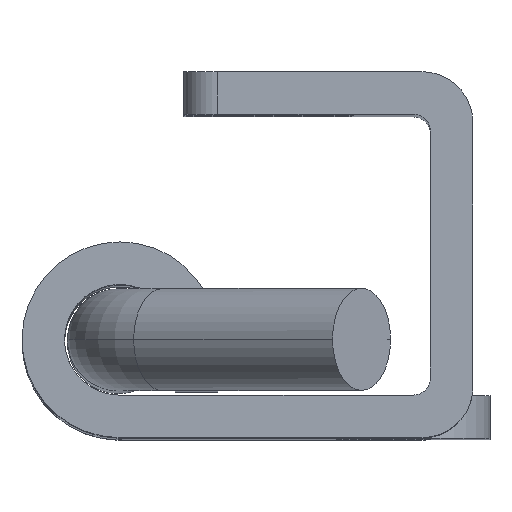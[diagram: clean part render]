
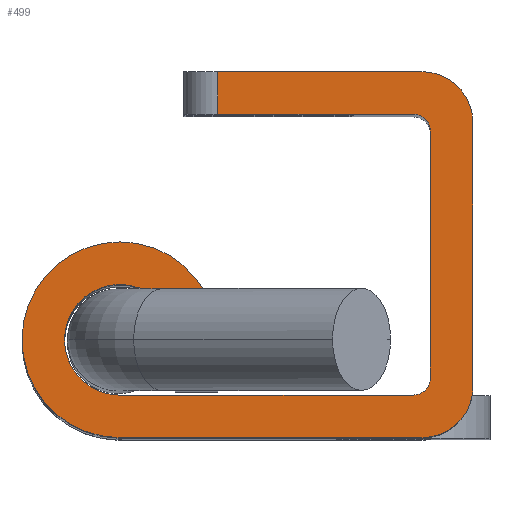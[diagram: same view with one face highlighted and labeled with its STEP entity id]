
A CAD part, top view. The second image highlights one B-rep face of the part: STEP entity #499.
In plain terms, the highlighted planar face has unit normal (0, 0, 1).
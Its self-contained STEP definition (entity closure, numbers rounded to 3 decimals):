
#3 = EDGE_CURVE ( 'NONE', #1834, #942, #2531, .T. ) ;
#12 = DIRECTION ( 'NONE',  ( 1., 0., 0. ) ) ;
#14 = DIRECTION ( 'NONE',  ( 0., 0., -1. ) ) ;
#31 = DIRECTION ( 'NONE',  ( 0., 1., 0. ) ) ;
#42 = CARTESIAN_POINT ( 'NONE',  ( 5.857, 0., 45.5 ) ) ;
#57 = CARTESIAN_POINT ( 'NONE',  ( 0.027, 2.5, 45.5 ) ) ;
#62 = CIRCLE ( 'NONE', #465, 5.75 ) ;
#87 = ORIENTED_EDGE ( 'NONE', *, *, #1687, .T. ) ;
#92 = CARTESIAN_POINT ( 'NONE',  ( 18.357, 0., 45.5 ) ) ;
#117 = VERTEX_POINT ( 'NONE', #2298 ) ;
#140 = CARTESIAN_POINT ( 'NONE',  ( 0., 0., 45.5 ) ) ;
#142 = AXIS2_PLACEMENT_3D ( 'NONE', #1974, #2166, #1408 ) ;
#145 = AXIS2_PLACEMENT_3D ( 'NONE', #1194, #1952, #12 ) ;
#163 = B_SPLINE_CURVE_WITH_KNOTS ( 'NONE', 3,
 ( #520, #1895, #2071, #1698 ),
 .UNSPECIFIED., .F., .F.,
 ( 4, 4 ),
 ( 0., 1. ),
 .UNSPECIFIED. ) ;
#171 = VERTEX_POINT ( 'NONE', #1718 ) ;
#186 = ORIENTED_EDGE ( 'NONE', *, *, #555, .F. ) ;
#218 = AXIS2_PLACEMENT_3D ( 'NONE', #738, #560, #1526 ) ;
#230 = LINE ( 'NONE', #42, #1099 ) ;
#237 = ORIENTED_EDGE ( 'NONE', *, *, #2093, .F. ) ;
#259 = CIRCLE ( 'NONE', #142, 3. ) ;
#260 = CARTESIAN_POINT ( 'NONE',  ( 0.215, 0., 45.5 ) ) ;
#284 = CARTESIAN_POINT ( 'NONE',  ( 3.357, 2.8, 45.5 ) ) ;
#316 = EDGE_CURVE ( 'NONE', #1979, #600, #1616, .T. ) ;
#322 = LINE ( 'NONE', #908, #756 ) ;
#354 = DIRECTION ( 'NONE',  ( -1., 0., 0. ) ) ;
#396 = CARTESIAN_POINT ( 'NONE',  ( 5.857, 19., 45.5 ) ) ;
#407 = DIRECTION ( 'NONE',  ( 0., 1., 0. ) ) ;
#411 = DIRECTION ( 'NONE',  ( 1., 0., 0. ) ) ;
#445 = DIRECTION ( 'NONE',  ( -1., 0., 0. ) ) ;
#465 = AXIS2_PLACEMENT_3D ( 'NONE', #2171, #849, #411 ) ;
#476 = CARTESIAN_POINT ( 'NONE',  ( 17.357, 18., 45.5 ) ) ;
#492 = ORIENTED_EDGE ( 'NONE', *, *, #1450, .F. ) ;
#499 = ADVANCED_FACE ( 'NONE', ( #2492 ), #1540, .F. ) ;
#510 = AXIS2_PLACEMENT_3D ( 'NONE', #476, #2010, #1446 ) ;
#515 = VERTEX_POINT ( 'NONE', #1912 ) ;
#520 = CARTESIAN_POINT ( 'NONE',  ( 0., 0., 45.5 ) ) ;
#555 = EDGE_CURVE ( 'NONE', #515, #1657, #2501, .T. ) ;
#560 = DIRECTION ( 'NONE',  ( 0., 0., -1. ) ) ;
#593 = EDGE_LOOP ( 'NONE', ( #2534, #1538, #186, #1307, #492, #865, #1093, #237, #982, #2404, #659, #2030, #1120, #791, #87, #1692, #1807 ) ) ;
#600 = VERTEX_POINT ( 'NONE', #2086 ) ;
#613 = CARTESIAN_POINT ( 'NONE',  ( 3.357, 5.749, 45.5 ) ) ;
#630 = DIRECTION ( 'NONE',  ( 0., 0., 1. ) ) ;
#659 = ORIENTED_EDGE ( 'NONE', *, *, #2488, .T. ) ;
#728 = CARTESIAN_POINT ( 'NONE',  ( 20.857, 0., 45.5 ) ) ;
#738 = CARTESIAN_POINT ( 'NONE',  ( 0., 0., 45.5 ) ) ;
#756 = VECTOR ( 'NONE', #1106, 1000. ) ;
#791 = ORIENTED_EDGE ( 'NONE', *, *, #3, .T. ) ;
#799 = EDGE_CURVE ( 'NONE', #117, #1834, #163, .T. ) ;
#809 = EDGE_CURVE ( 'NONE', #2530, #2384, #322, .T. ) ;
#823 = DIRECTION ( 'NONE',  ( 0., -1., 0. ) ) ;
#842 = VECTOR ( 'NONE', #445, 1000. ) ;
#849 = DIRECTION ( 'NONE',  ( 0., 0., 1. ) ) ;
#865 = ORIENTED_EDGE ( 'NONE', *, *, #985, .T. ) ;
#903 = LINE ( 'NONE', #92, #2063 ) ;
#908 = CARTESIAN_POINT ( 'NONE',  ( 0., 2.5, 45.5 ) ) ;
#942 = VERTEX_POINT ( 'NONE', #1383 ) ;
#962 = DIRECTION ( 'NONE',  ( 1., 0., 0. ) ) ;
#967 = VECTOR ( 'NONE', #1905, 1000. ) ;
#982 = ORIENTED_EDGE ( 'NONE', *, *, #316, .F. ) ;
#985 = EDGE_CURVE ( 'NONE', #2469, #2384, #2140, .T. ) ;
#1093 = ORIENTED_EDGE ( 'NONE', *, *, #809, .F. ) ;
#1099 = VECTOR ( 'NONE', #823, 1000. ) ;
#1106 = DIRECTION ( 'NONE',  ( 1., 0., 0. ) ) ;
#1120 = ORIENTED_EDGE ( 'NONE', *, *, #799, .T. ) ;
#1132 = CIRCLE ( 'NONE', #145, 3.25 ) ;
#1139 = CIRCLE ( 'NONE', #510, 1. ) ;
#1141 = EDGE_CURVE ( 'NONE', #2022, #1657, #230, .T. ) ;
#1194 = CARTESIAN_POINT ( 'NONE',  ( 0.107, 5.749, 45.5 ) ) ;
#1253 = VECTOR ( 'NONE', #407, 1000. ) ;
#1265 = DIRECTION ( 'NONE',  ( 0., 1., 0. ) ) ;
#1276 = LINE ( 'NONE', #2202, #842 ) ;
#1282 = VERTEX_POINT ( 'NONE', #1546 ) ;
#1307 = ORIENTED_EDGE ( 'NONE', *, *, #2441, .T. ) ;
#1316 = CARTESIAN_POINT ( 'NONE',  ( 20.857, 19., 45.5 ) ) ;
#1358 = LINE ( 'NONE', #728, #967 ) ;
#1383 = CARTESIAN_POINT ( 'NONE',  ( 17.857, 0., 45.5 ) ) ;
#1406 = CARTESIAN_POINT ( 'NONE',  ( 5.857, 2.8, 45.5 ) ) ;
#1408 = DIRECTION ( 'NONE',  ( -1., 0., 0. ) ) ;
#1446 = DIRECTION ( 'NONE',  ( -1., 0., 0. ) ) ;
#1450 = EDGE_CURVE ( 'NONE', #2469, #1514, #903, .T. ) ;
#1464 = LINE ( 'NONE', #2176, #1938 ) ;
#1514 = VERTEX_POINT ( 'NONE', #2502 ) ;
#1526 = DIRECTION ( 'NONE',  ( 1., 0., 0. ) ) ;
#1538 = ORIENTED_EDGE ( 'NONE', *, *, #1141, .T. ) ;
#1540 = PLANE ( 'NONE',  #218 ) ;
#1546 = CARTESIAN_POINT ( 'NONE',  ( 5.857, 2.8, 45.5 ) ) ;
#1548 = CARTESIAN_POINT ( 'NONE',  ( 17.357, 3.5, 45.5 ) ) ;
#1556 = EDGE_CURVE ( 'NONE', #2108, #2241, #1358, .T. ) ;
#1561 = CARTESIAN_POINT ( 'NONE',  ( 17.357, 2.5, 45.5 ) ) ;
#1616 = LINE ( 'NONE', #613, #1253 ) ;
#1638 = EDGE_CURVE ( 'NONE', #2241, #171, #259, .T. ) ;
#1657 = VERTEX_POINT ( 'NONE', #396 ) ;
#1687 = EDGE_CURVE ( 'NONE', #942, #2108, #1699, .T. ) ;
#1692 = ORIENTED_EDGE ( 'NONE', *, *, #1556, .T. ) ;
#1698 = CARTESIAN_POINT ( 'NONE',  ( 0.215, 0., 45.5 ) ) ;
#1699 = CIRCLE ( 'NONE', #2385, 3. ) ;
#1718 = CARTESIAN_POINT ( 'NONE',  ( 17.857, 21.5, 45.5 ) ) ;
#1725 = DIRECTION ( 'NONE',  ( -1., 0., 0. ) ) ;
#1786 = CARTESIAN_POINT ( 'NONE',  ( 18.357, 3.5, 45.5 ) ) ;
#1807 = ORIENTED_EDGE ( 'NONE', *, *, #1638, .T. ) ;
#1834 = VERTEX_POINT ( 'NONE', #260 ) ;
#1895 = CARTESIAN_POINT ( 'NONE',  ( 0.072, 0., 45.5 ) ) ;
#1898 = VECTOR ( 'NONE', #1725, 1000. ) ;
#1905 = DIRECTION ( 'NONE',  ( 0., 1., 0. ) ) ;
#1910 = CARTESIAN_POINT ( 'NONE',  ( 5.857, 5.749, 45.5 ) ) ;
#1912 = CARTESIAN_POINT ( 'NONE',  ( 17.357, 19., 45.5 ) ) ;
#1938 = VECTOR ( 'NONE', #31, 1000. ) ;
#1952 = DIRECTION ( 'NONE',  ( 0., 0., 1. ) ) ;
#1974 = CARTESIAN_POINT ( 'NONE',  ( 17.857, 18.5, 45.5 ) ) ;
#1979 = VERTEX_POINT ( 'NONE', #284 ) ;
#1982 = VECTOR ( 'NONE', #2412, 1000. ) ;
#1995 = CARTESIAN_POINT ( 'NONE',  ( 5.857, 21.5, 45.5 ) ) ;
#2002 = DIRECTION ( 'NONE',  ( -1., 0., 0. ) ) ;
#2010 = DIRECTION ( 'NONE',  ( 0., 0., -1. ) ) ;
#2022 = VERTEX_POINT ( 'NONE', #1995 ) ;
#2030 = ORIENTED_EDGE ( 'NONE', *, *, #2084, .T. ) ;
#2063 = VECTOR ( 'NONE', #1265, 1000. ) ;
#2071 = CARTESIAN_POINT ( 'NONE',  ( 0.143, 0., 45.5 ) ) ;
#2084 = EDGE_CURVE ( 'NONE', #2170, #117, #62, .T. ) ;
#2086 = CARTESIAN_POINT ( 'NONE',  ( 3.357, 5.749, 45.5 ) ) ;
#2093 = EDGE_CURVE ( 'NONE', #600, #2530, #1132, .T. ) ;
#2108 = VERTEX_POINT ( 'NONE', #2395 ) ;
#2140 = CIRCLE ( 'NONE', #2182, 1. ) ;
#2166 = DIRECTION ( 'NONE',  ( 0., 0., 1. ) ) ;
#2170 = VERTEX_POINT ( 'NONE', #1910 ) ;
#2171 = CARTESIAN_POINT ( 'NONE',  ( 0.107, 5.749, 45.5 ) ) ;
#2176 = CARTESIAN_POINT ( 'NONE',  ( 5.857, 5.749, 45.5 ) ) ;
#2182 = AXIS2_PLACEMENT_3D ( 'NONE', #1548, #14, #354 ) ;
#2202 = CARTESIAN_POINT ( 'NONE',  ( 20.857, 21.5, 45.5 ) ) ;
#2241 = VERTEX_POINT ( 'NONE', #2284 ) ;
#2284 = CARTESIAN_POINT ( 'NONE',  ( 20.857, 18.5, 45.5 ) ) ;
#2298 = CARTESIAN_POINT ( 'NONE',  ( 0., 0., 45.5 ) ) ;
#2369 = LINE ( 'NONE', #1406, #1982 ) ;
#2384 = VERTEX_POINT ( 'NONE', #1561 ) ;
#2385 = AXIS2_PLACEMENT_3D ( 'NONE', #2403, #630, #2002 ) ;
#2395 = CARTESIAN_POINT ( 'NONE',  ( 20.857, 3., 45.5 ) ) ;
#2403 = CARTESIAN_POINT ( 'NONE',  ( 17.857, 3., 45.5 ) ) ;
#2404 = ORIENTED_EDGE ( 'NONE', *, *, #2426, .T. ) ;
#2412 = DIRECTION ( 'NONE',  ( 1., 0., 0. ) ) ;
#2426 = EDGE_CURVE ( 'NONE', #1979, #1282, #2369, .T. ) ;
#2431 = VECTOR ( 'NONE', #962, 1000. ) ;
#2433 = EDGE_CURVE ( 'NONE', #171, #2022, #1276, .T. ) ;
#2441 = EDGE_CURVE ( 'NONE', #515, #1514, #1139, .T. ) ;
#2469 = VERTEX_POINT ( 'NONE', #1786 ) ;
#2488 = EDGE_CURVE ( 'NONE', #1282, #2170, #1464, .T. ) ;
#2492 = FACE_OUTER_BOUND ( 'NONE', #593, .T. ) ;
#2501 = LINE ( 'NONE', #1316, #1898 ) ;
#2502 = CARTESIAN_POINT ( 'NONE',  ( 18.357, 18., 45.5 ) ) ;
#2530 = VERTEX_POINT ( 'NONE', #57 ) ;
#2531 = LINE ( 'NONE', #140, #2431 ) ;
#2534 = ORIENTED_EDGE ( 'NONE', *, *, #2433, .T. ) ;
